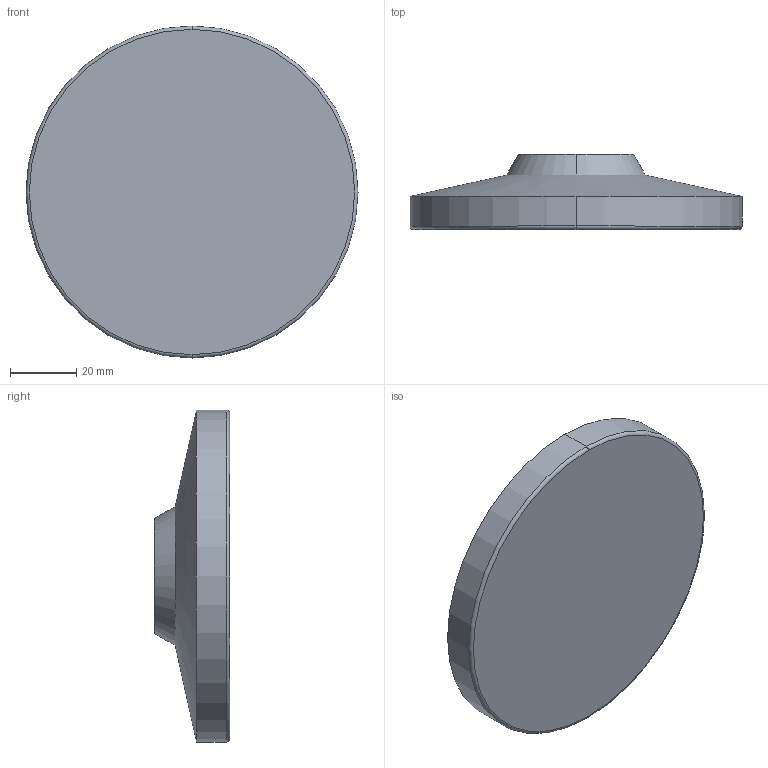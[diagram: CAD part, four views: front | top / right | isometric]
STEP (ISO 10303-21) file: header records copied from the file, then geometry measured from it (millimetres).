
FILE_DESCRIPTION (( 'STEP AP214' ), '1' );
FILE_NAME ('6311.3-100-22-N.step', '2023-04-17T05:34:38', ( '' ), ( '' ), 'SwSTEP 2.0', 'SolidWorks 2022', '' );
FILE_SCHEMA (( 'AUTOMOTIVE_DESIGN' ));
Length unit declared in the file: millimetre
Products named in the file (1): 6311.3-100-22-N
Bounding box: 100 x 22.7 x 100 mm (x, y, z)
Volume: 109522.3 mm3; surface area: 21829.2 mm2
Topology: 1 solids, 1 shells, 30 faces, 67 edges, 42 vertices
Faces by surface type: cylinder 12, torus 6, plane 6, cone 4, sphere 2
Entity records: 990 total; most frequent: CARTESIAN_POINT 176, DIRECTION 169, ORIENTED_EDGE 134, AXIS2_PLACEMENT_3D 75, EDGE_CURVE 67, CIRCLE 44, VERTEX_POINT 42, EDGE_LOOP 33
